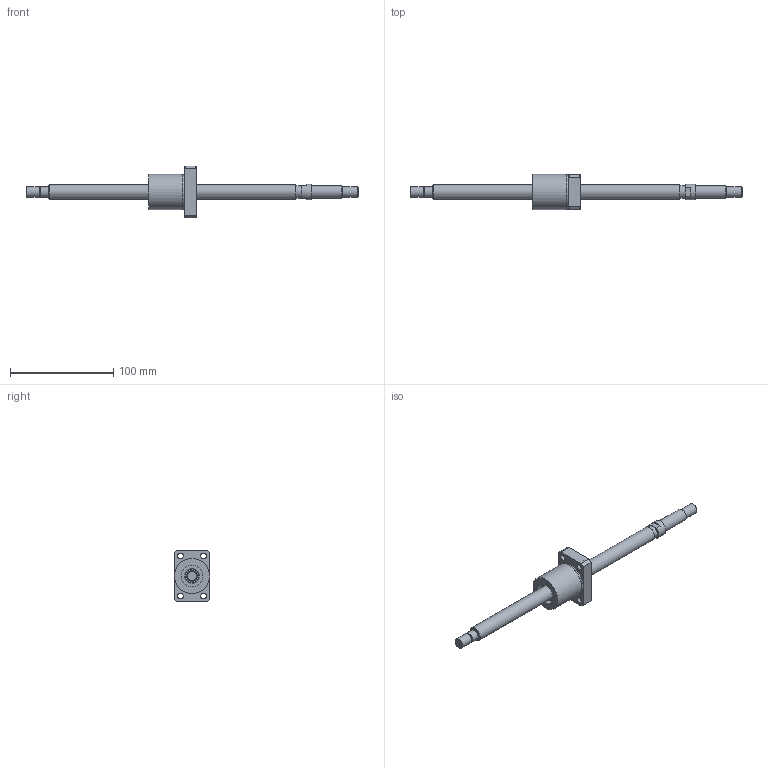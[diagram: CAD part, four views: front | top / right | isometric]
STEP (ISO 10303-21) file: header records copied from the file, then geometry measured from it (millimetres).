
FILE_DESCRIPTION(/* description */ ('STEP AP203'),/* implementation_level */ '2;1');
FILE_NAME(/* name */ 'BNK1408-2.5RRG0+321LC5Y(142.50)',/* time_stamp */ '2024-07-08T10:05:54+02:00',/* author */ ('License CC BY-ND 4.0'),/* organization */ ('CADENAS'),/* preprocessor_version */ 'ST-DEVELOPER v19.3',/* originating_system */ 'PARTsolutions',/* authorisation */ ' ');
FILE_SCHEMA (('CONFIG_CONTROL_DESIGN'));
Length unit declared in the file: millimetre
Products named in the file (3): BNK1408-2.5RRG0+321LC5Y(142.50); BNK 1408-2.5RRG0+321LC5Y Shaft; BNK 1408-2.5RRG0+321LC5YRR0 Nut
Assembly tree (2 placements, depth 2):
  BNK1408-2.5RRG0+321LC5Y(142.50)
    BNK 1408-2.5RRG0+321LC5Y Shaft
    BNK 1408-2.5RRG0+321LC5YRR0 Nut
Bounding box: 321 x 34 x 50 mm (x, y, z)
Volume: 84003.8 mm3; surface area: 25764.6 mm2
Topology: 2 solids, 2 shells, 74 faces, 159 edges, 102 vertices
Faces by surface type: plane 28, cylinder 27, cone 17, torus 2
Full cylindrical faces by diameter (mm): 4.917 x2, 5.5 x4, 9.5 x4, 9.6 x1, 10 x3, 12 x2, 14 x2, 15 x1, 21 x2, 33.4 x1, 34 x1
Entity records: 1940 total; most frequent: CARTESIAN_POINT 349, DIRECTION 336, ORIENTED_EDGE 242, AXIS2_PLACEMENT_3D 155, FACE_BOUND 134, EDGE_LOOP 133, EDGE_CURVE 121, VERTEX_POINT 99
